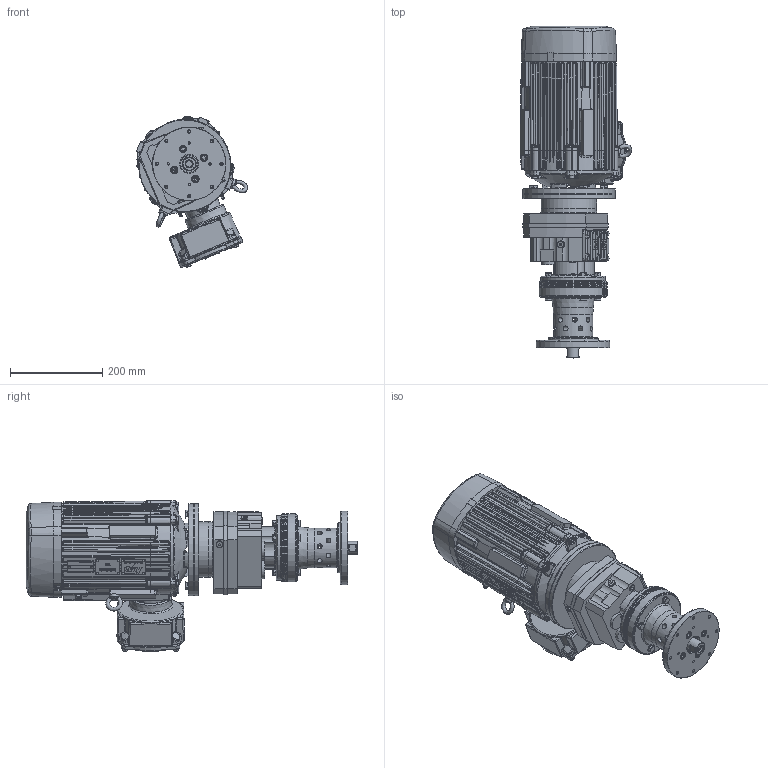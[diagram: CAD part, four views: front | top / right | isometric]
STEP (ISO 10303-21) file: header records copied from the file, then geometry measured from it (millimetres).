
FILE_DESCRIPTION (( 'STEP AP214' ), '1' );
FILE_NAME ('Elektr. Rührwerksantrieb ATEX 85Nm 3kW mit Gewindenabe M16_PTM6643+EDF-140-1200EX+EDB-20-M16.STEP', '2025-05-06T11:57:48', ( '' ), ( '' ), 'SwSTEP 2.0', 'SolidWorks 2022', '' );
FILE_SCHEMA (( 'AUTOMOTIVE_DESIGN' ));
Length unit declared in the file: millimetre
Products named in the file (1): Elektr. Rührwerksantrieb ATEX 85Nm 3kW mit Gewindenabe M16_PTM6643+EDF-140-1200EX+EDB-20-M16
Bounding box: 241.45 x 718.1 x 326.59 mm (x, y, z)
Surface area: 748509.6 mm2 (no closed solid volume)
Topology: 0 solids, 95 shells, 2047 faces, 6773 edges, 4578 vertices
Faces by surface type: plane 696, bspline 658, cylinder 420, cone 212, torus 61
Full cylindrical faces by diameter (mm): 5 x4, 5.795 x4, 6.2 x8, 7 x1, 8 x4, 8.88 x1, 9 x1, 10 x5, 10.8 x16, 11 x3, 13 x3, 14 x8, 15 x5, 16 x2, 17 x1, 17.5 x1, 18 x1, 20 x2, 28 x1, 36 x1, 40 x1, 85 x1, 108 x1, 120 x2, 140 x1, 147 x2, 159 x1, 200 x2
Entity records: 129666 total; most frequent: CARTESIAN_POINT 56696, ORIENTED_EDGE 10321, DIRECTION 8718, EDGE_CURVE 6496, VERTEX_POINT 4524, AXIS2_PLACEMENT_3D 3151, EDGE_LOOP 2461, LINE 2416
